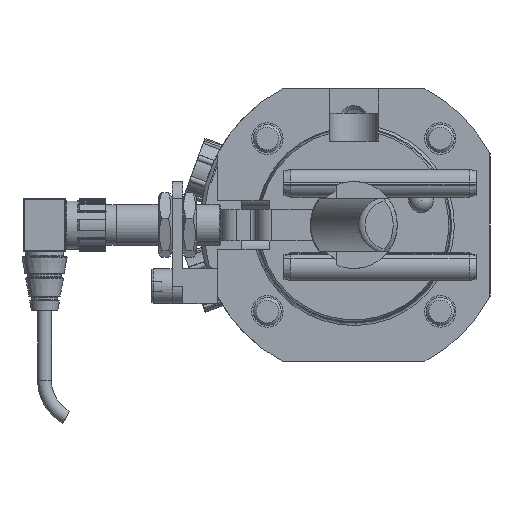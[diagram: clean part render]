
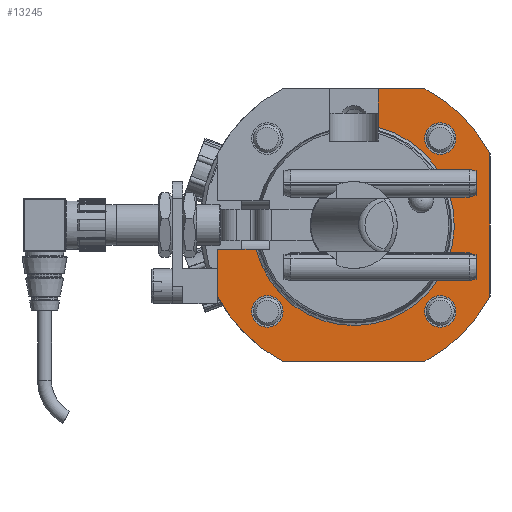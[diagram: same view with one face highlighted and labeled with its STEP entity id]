
A CAD part, left-side view. The second image highlights one B-rep face of the part: STEP entity #13245.
In plain terms, the highlighted planar face has unit normal (-1, 0, 0).
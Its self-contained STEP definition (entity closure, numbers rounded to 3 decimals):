
#605=LINE('',#22051,#1381);
#606=LINE('',#22054,#1382);
#613=LINE('',#22071,#1389);
#626=LINE('',#22134,#1402);
#635=LINE('',#22166,#1411);
#641=LINE('',#22203,#1417);
#1381=VECTOR('',#16669,40.743);
#1382=VECTOR('',#16672,40.743);
#1389=VECTOR('',#16687,11.079);
#1402=VECTOR('',#16726,13.372);
#1411=VECTOR('',#16747,11.079);
#1417=VECTOR('',#16767,13.372);
#2081=PLANE('',#14366);
#2535=FACE_BOUND('',#4027,.T.);
#2536=FACE_BOUND('',#4028,.T.);
#2537=FACE_BOUND('',#4029,.T.);
#3031=FACE_OUTER_BOUND('',#4026,.T.);
#4026=EDGE_LOOP('',(#9599,#9600,#9601,#9602,#9603,#9604,#9605,#9606,#9607,
#9608));
#4027=EDGE_LOOP('',(#9609));
#4028=EDGE_LOOP('',(#9610));
#4029=EDGE_LOOP('',(#9611));
#4986=CIRCLE('',#14333,44.);
#4987=CIRCLE('',#14335,44.);
#5001=CIRCLE('',#14367,28.785);
#5002=CIRCLE('',#14368,44.);
#5003=CIRCLE('',#14369,4.5);
#5004=CIRCLE('',#14370,4.5);
#5005=CIRCLE('',#14371,4.5);
#5916=VERTEX_POINT('',#22039);
#5917=VERTEX_POINT('',#22041);
#5918=VERTEX_POINT('',#22045);
#5919=VERTEX_POINT('',#22047);
#5920=VERTEX_POINT('',#22053);
#5925=VERTEX_POINT('',#22068);
#5926=VERTEX_POINT('',#22070);
#5941=VERTEX_POINT('',#22132);
#5952=VERTEX_POINT('',#22165);
#5960=VERTEX_POINT('',#22202);
#5961=VERTEX_POINT('',#22205);
#5962=VERTEX_POINT('',#22207);
#5963=VERTEX_POINT('',#22209);
#7271=EDGE_CURVE('',#5917,#5916,#4986,.T.);
#7273=EDGE_CURVE('',#5918,#5919,#4987,.T.);
#7275=EDGE_CURVE('',#5917,#5919,#605,.T.);
#7276=EDGE_CURVE('',#5920,#5916,#606,.T.);
#7285=EDGE_CURVE('',#5926,#5925,#613,.T.);
#7307=EDGE_CURVE('',#5918,#5941,#626,.T.);
#7322=EDGE_CURVE('',#5941,#5952,#635,.T.);
#7334=EDGE_CURVE('',#5926,#5952,#5001,.T.);
#7335=EDGE_CURVE('',#5925,#5960,#641,.T.);
#7336=EDGE_CURVE('',#5920,#5960,#5002,.T.);
#7337=EDGE_CURVE('',#5961,#5961,#5003,.T.);
#7338=EDGE_CURVE('',#5962,#5962,#5004,.T.);
#7339=EDGE_CURVE('',#5963,#5963,#5005,.T.);
#9599=ORIENTED_EDGE('',*,*,#7334,.F.);
#9600=ORIENTED_EDGE('',*,*,#7285,.T.);
#9601=ORIENTED_EDGE('',*,*,#7335,.T.);
#9602=ORIENTED_EDGE('',*,*,#7336,.F.);
#9603=ORIENTED_EDGE('',*,*,#7276,.T.);
#9604=ORIENTED_EDGE('',*,*,#7271,.F.);
#9605=ORIENTED_EDGE('',*,*,#7275,.T.);
#9606=ORIENTED_EDGE('',*,*,#7273,.F.);
#9607=ORIENTED_EDGE('',*,*,#7307,.T.);
#9608=ORIENTED_EDGE('',*,*,#7322,.T.);
#9609=ORIENTED_EDGE('',*,*,#7337,.T.);
#9610=ORIENTED_EDGE('',*,*,#7338,.T.);
#9611=ORIENTED_EDGE('',*,*,#7339,.T.);
#13245=ADVANCED_FACE('',(#3031,#2535,#2536,#2537),#2081,.T.);
#14333=AXIS2_PLACEMENT_3D('',#22043,#16659,#16660);
#14335=AXIS2_PLACEMENT_3D('',#22048,#16664,#16665);
#14366=AXIS2_PLACEMENT_3D('',#22200,#16763,#16764);
#14367=AXIS2_PLACEMENT_3D('',#22201,#16765,#16766);
#14368=AXIS2_PLACEMENT_3D('',#22204,#16768,#16769);
#14369=AXIS2_PLACEMENT_3D('',#22206,#16770,#16771);
#14370=AXIS2_PLACEMENT_3D('',#22208,#16772,#16773);
#14371=AXIS2_PLACEMENT_3D('',#22210,#16774,#16775);
#16659=DIRECTION('center_axis',(1.,0.,0.));
#16660=DIRECTION('ref_axis',(0.,1.,0.));
#16664=DIRECTION('center_axis',(1.,0.,0.));
#16665=DIRECTION('ref_axis',(0.,1.,0.));
#16669=DIRECTION('',(0.,0.,1.));
#16672=DIRECTION('',(0.,-1.,0.));
#16687=DIRECTION('',(0.,1.,0.));
#16726=DIRECTION('',(0.,1.,0.));
#16747=DIRECTION('',(0.,0.,-1.));
#16763=DIRECTION('center_axis',(-1.,0.,0.));
#16764=DIRECTION('ref_axis',(0.,0.,1.));
#16765=DIRECTION('center_axis',(-1.,0.,0.));
#16766=DIRECTION('ref_axis',(0.,-0.707,-0.707));
#16767=DIRECTION('',(0.,0.,-1.));
#16768=DIRECTION('center_axis',(1.,0.,0.));
#16769=DIRECTION('ref_axis',(0.,1.,0.));
#16770=DIRECTION('center_axis',(1.,0.,0.));
#16771=DIRECTION('ref_axis',(0.,0.,
1.));
#16772=DIRECTION('center_axis',(1.,0.,0.));
#16773=DIRECTION('ref_axis',(0.,1.,0.));
#16774=DIRECTION('center_axis',(1.,0.,0.));
#16775=DIRECTION('ref_axis',(0.,-1.,0.));
#22039=CARTESIAN_POINT('',(-83.,-20.372,-39.));
#22041=CARTESIAN_POINT('',(-83.,-39.,-20.372));
#22043=CARTESIAN_POINT('Origin',(-83.,0.,0.));
#22045=CARTESIAN_POINT('',(-83.,-20.372,39.));
#22047=CARTESIAN_POINT('',(-83.,-39.,20.372));
#22048=CARTESIAN_POINT('Origin',(-83.,0.,0.));
#22051=CARTESIAN_POINT('',(-83.,-39.,10.186));
#22053=CARTESIAN_POINT('',(-83.,20.372,-39.));
#22054=CARTESIAN_POINT('',(-83.,7.81,-39.));
#22068=CARTESIAN_POINT('',(-83.,39.,-7.));
#22070=CARTESIAN_POINT('',(-83.,27.921,-7.));
#22071=CARTESIAN_POINT('',(-83.,37.496,-7.));
#22132=CARTESIAN_POINT('',(-83.,-7.,39.));
#22134=CARTESIAN_POINT('',(-83.,28.182,39.));
#22165=CARTESIAN_POINT('',(-83.,-7.,27.921));
#22166=CARTESIAN_POINT('',(-83.,-7.,19.5));
#22200=CARTESIAN_POINT('Origin',(-83.,35.993,0.));
#22201=CARTESIAN_POINT('Origin',(-83.,0.,0.));
#22202=CARTESIAN_POINT('',(-83.,39.,-20.372));
#22203=CARTESIAN_POINT('',(-83.,39.,-10.186));
#22204=CARTESIAN_POINT('Origin',(-83.,0.,0.));
#22205=CARTESIAN_POINT('',(-83.,-24.749,-29.249));
#22206=CARTESIAN_POINT('Origin',(-83.,-24.749,-24.749));
#22207=CARTESIAN_POINT('',(-83.,-29.249,24.749));
#22208=CARTESIAN_POINT('Origin',(-83.,-24.749,24.749));
#22209=CARTESIAN_POINT('',(-83.,29.249,-24.749));
#22210=CARTESIAN_POINT('Origin',(-83.,24.749,-24.749));
